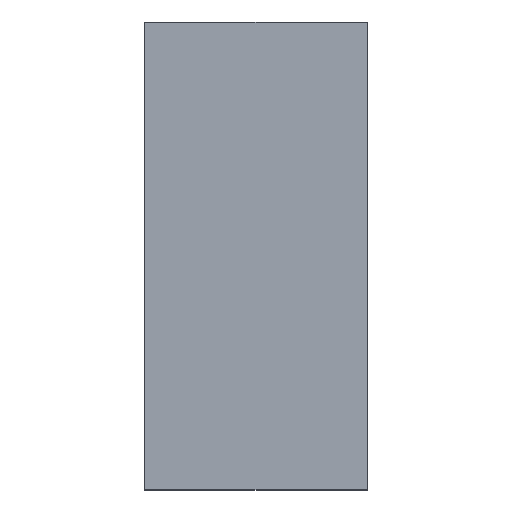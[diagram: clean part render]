
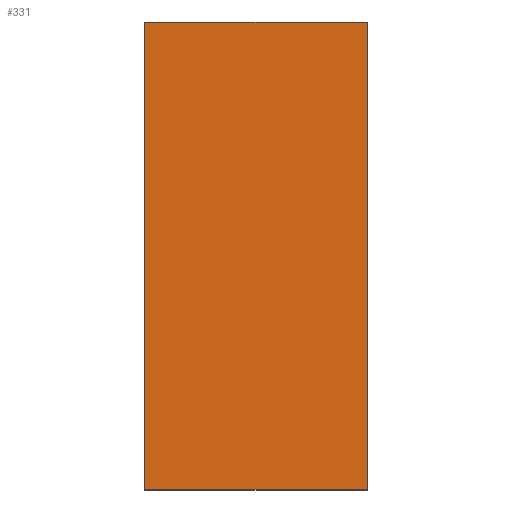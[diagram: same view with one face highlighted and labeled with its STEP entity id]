
A CAD part, top view. The second image highlights one B-rep face of the part: STEP entity #331.
In plain terms, the highlighted planar face has unit normal (0, 0, 1).
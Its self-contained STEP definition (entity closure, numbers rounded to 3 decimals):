
#22 = VERTEX_POINT('',#23);
#23 = CARTESIAN_POINT('',(60.,-210.,-180.));
#32 = PLANE('',#33);
#33 = AXIS2_PLACEMENT_3D('',#34,#35,#36);
#34 = CARTESIAN_POINT('',(60.,-210.,-180.));
#35 = DIRECTION('',(1.,-0.,0.));
#36 = DIRECTION('',(0.,1.,0.));
#44 = PLANE('',#45);
#45 = AXIS2_PLACEMENT_3D('',#46,#47,#48);
#46 = CARTESIAN_POINT('',(260.,-210.,-180.));
#47 = DIRECTION('',(0.,1.,0.));
#48 = DIRECTION('',(-1.,0.,0.));
#85 = VERTEX_POINT('',#86);
#86 = CARTESIAN_POINT('',(60.,210.,-180.));
#100 = PLANE('',#101);
#101 = AXIS2_PLACEMENT_3D('',#102,#103,#104);
#102 = CARTESIAN_POINT('',(60.,210.,-180.));
#103 = DIRECTION('',(0.,-1.,0.));
#104 = DIRECTION('',(1.,0.,0.));
#112 = EDGE_CURVE('',#22,#85,#113,.T.);
#113 = SURFACE_CURVE('',#114,(#118,#125),.PCURVE_S1.);
#114 = LINE('',#115,#116);
#115 = CARTESIAN_POINT('',(60.,-210.,-180.));
#116 = VECTOR('',#117,1.);
#117 = DIRECTION('',(0.,1.,0.));
#118 = PCURVE('',#32,#119);
#119 = DEFINITIONAL_REPRESENTATION('',(#120),#124);
#120 = LINE('',#121,#122);
#121 = CARTESIAN_POINT('',(0.,0.));
#122 = VECTOR('',#123,1.);
#123 = DIRECTION('',(1.,0.));
#124 = ( GEOMETRIC_REPRESENTATION_CONTEXT(2) 
PARAMETRIC_REPRESENTATION_CONTEXT() REPRESENTATION_CONTEXT('2D SPACE',''
  ) );
#125 = PCURVE('',#126,#131);
#126 = PLANE('',#127);
#127 = AXIS2_PLACEMENT_3D('',#128,#129,#130);
#128 = CARTESIAN_POINT('',(160.,0.,-180.));
#129 = DIRECTION('',(-0.,-0.,-1.));
#130 = DIRECTION('',(-1.,0.,0.));
#131 = DEFINITIONAL_REPRESENTATION('',(#132),#136);
#132 = LINE('',#133,#134);
#133 = CARTESIAN_POINT('',(100.,-210.));
#134 = VECTOR('',#135,1.);
#135 = DIRECTION('',(0.,1.));
#136 = ( GEOMETRIC_REPRESENTATION_CONTEXT(2) 
PARAMETRIC_REPRESENTATION_CONTEXT() REPRESENTATION_CONTEXT('2D SPACE',''
  ) );
#166 = VERTEX_POINT('',#167);
#167 = CARTESIAN_POINT('',(260.,210.,-180.));
#181 = PLANE('',#182);
#182 = AXIS2_PLACEMENT_3D('',#183,#184,#185);
#183 = CARTESIAN_POINT('',(260.,210.,-180.));
#184 = DIRECTION('',(-1.,-0.,-0.));
#185 = DIRECTION('',(0.,-1.,0.));
#193 = EDGE_CURVE('',#85,#166,#194,.T.);
#194 = SURFACE_CURVE('',#195,(#199,#206),.PCURVE_S1.);
#195 = LINE('',#196,#197);
#196 = CARTESIAN_POINT('',(60.,210.,-180.));
#197 = VECTOR('',#198,1.);
#198 = DIRECTION('',(1.,0.,0.));
#199 = PCURVE('',#100,#200);
#200 = DEFINITIONAL_REPRESENTATION('',(#201),#205);
#201 = LINE('',#202,#203);
#202 = CARTESIAN_POINT('',(0.,0.));
#203 = VECTOR('',#204,1.);
#204 = DIRECTION('',(1.,0.));
#205 = ( GEOMETRIC_REPRESENTATION_CONTEXT(2) 
PARAMETRIC_REPRESENTATION_CONTEXT() REPRESENTATION_CONTEXT('2D SPACE',''
  ) );
#206 = PCURVE('',#126,#207);
#207 = DEFINITIONAL_REPRESENTATION('',(#208),#212);
#208 = LINE('',#209,#210);
#209 = CARTESIAN_POINT('',(100.,210.));
#210 = VECTOR('',#211,1.);
#211 = DIRECTION('',(-1.,0.));
#212 = ( GEOMETRIC_REPRESENTATION_CONTEXT(2) 
PARAMETRIC_REPRESENTATION_CONTEXT() REPRESENTATION_CONTEXT('2D SPACE',''
  ) );
#242 = VERTEX_POINT('',#243);
#243 = CARTESIAN_POINT('',(260.,-210.,-180.));
#264 = EDGE_CURVE('',#166,#242,#265,.T.);
#265 = SURFACE_CURVE('',#266,(#270,#277),.PCURVE_S1.);
#266 = LINE('',#267,#268);
#267 = CARTESIAN_POINT('',(260.,210.,-180.));
#268 = VECTOR('',#269,1.);
#269 = DIRECTION('',(0.,-1.,0.));
#270 = PCURVE('',#181,#271);
#271 = DEFINITIONAL_REPRESENTATION('',(#272),#276);
#272 = LINE('',#273,#274);
#273 = CARTESIAN_POINT('',(0.,0.));
#274 = VECTOR('',#275,1.);
#275 = DIRECTION('',(1.,0.));
#276 = ( GEOMETRIC_REPRESENTATION_CONTEXT(2) 
PARAMETRIC_REPRESENTATION_CONTEXT() REPRESENTATION_CONTEXT('2D SPACE',''
  ) );
#277 = PCURVE('',#126,#278);
#278 = DEFINITIONAL_REPRESENTATION('',(#279),#283);
#279 = LINE('',#280,#281);
#280 = CARTESIAN_POINT('',(-100.,210.));
#281 = VECTOR('',#282,1.);
#282 = DIRECTION('',(0.,-1.));
#283 = ( GEOMETRIC_REPRESENTATION_CONTEXT(2) 
PARAMETRIC_REPRESENTATION_CONTEXT() REPRESENTATION_CONTEXT('2D SPACE',''
  ) );
#311 = EDGE_CURVE('',#242,#22,#312,.T.);
#312 = SURFACE_CURVE('',#313,(#317,#324),.PCURVE_S1.);
#313 = LINE('',#314,#315);
#314 = CARTESIAN_POINT('',(260.,-210.,-180.));
#315 = VECTOR('',#316,1.);
#316 = DIRECTION('',(-1.,0.,0.));
#317 = PCURVE('',#44,#318);
#318 = DEFINITIONAL_REPRESENTATION('',(#319),#323);
#319 = LINE('',#320,#321);
#320 = CARTESIAN_POINT('',(0.,0.));
#321 = VECTOR('',#322,1.);
#322 = DIRECTION('',(1.,0.));
#323 = ( GEOMETRIC_REPRESENTATION_CONTEXT(2) 
PARAMETRIC_REPRESENTATION_CONTEXT() REPRESENTATION_CONTEXT('2D SPACE',''
  ) );
#324 = PCURVE('',#126,#325);
#325 = DEFINITIONAL_REPRESENTATION('',(#326),#330);
#326 = LINE('',#327,#328);
#327 = CARTESIAN_POINT('',(-100.,-210.));
#328 = VECTOR('',#329,1.);
#329 = DIRECTION('',(1.,0.));
#330 = ( GEOMETRIC_REPRESENTATION_CONTEXT(2) 
PARAMETRIC_REPRESENTATION_CONTEXT() REPRESENTATION_CONTEXT('2D SPACE',''
  ) );
#331 = ADVANCED_FACE('',(#332),#126,.F.);
#332 = FACE_BOUND('',#333,.F.);
#333 = EDGE_LOOP('',(#334,#335,#336,#337));
#334 = ORIENTED_EDGE('',*,*,#112,.T.);
#335 = ORIENTED_EDGE('',*,*,#193,.T.);
#336 = ORIENTED_EDGE('',*,*,#264,.T.);
#337 = ORIENTED_EDGE('',*,*,#311,.T.);
